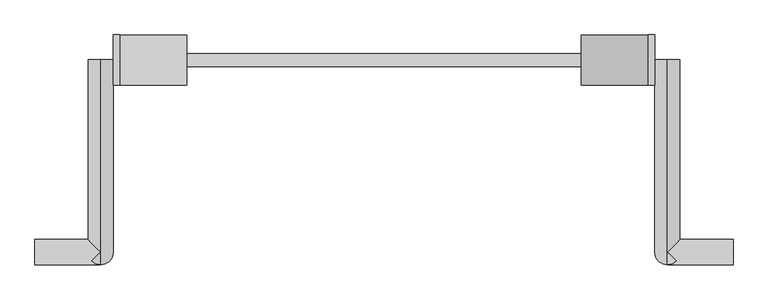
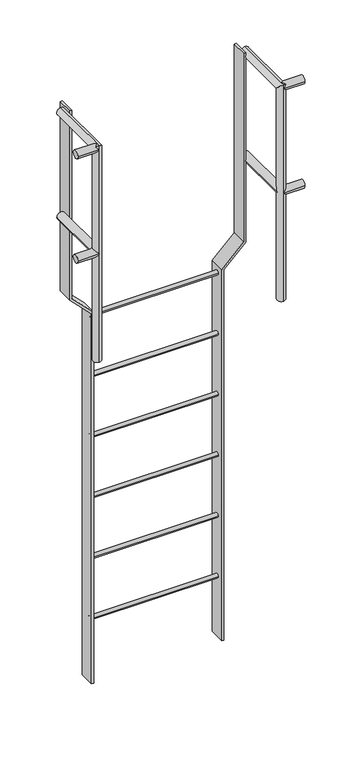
"""IFC4 building model written with IfcOpenShell, lengths in millimetres: proxy geometry, 래더 : 표준."""

from ifc_helpers import new_model, si_unit, point, frame, frame_2d, origin, place, context, project, spatial, polyline, circle_curve, ellipse_curve, trimmed, segment, composite_curve, outline, extrude, source, transform, mapped, element, save
from ifc_brep_helpers import plane_surface, cylinder_surface, advanced_brep


def specialty_equipment_72ed7d0d(model_context):
    return source(origin(), model_context, "Body", "SolidModel", [
        extrude(outline(composite_curve([segment(trimmed(circle_curve(frame_2d((292.7, -1500.0)), 10.0), [point((282.7, -1500.0))], [point((302.7, -1500.0))], False, "CARTESIAN"), True, "CONTINUOUS"), segment(trimmed(circle_curve(frame_2d((292.7, -1500.0)), 10.0), [point((302.7, -1500.0))], [point((282.7, -1500.0))], False, "CARTESIAN"), True, "CONTINUOUS")], self_intersect=False)), frame((-300.0, 0.0, 0.0), z_axis=(1.0, 0.0, 0.0), x_axis=(0.0, 1.0, 0.0)), (0.0, 0.0, 1.0), 600.0),
        extrude(outline(composite_curve([segment(trimmed(circle_curve(frame_2d((292.7, -1200.0)), 10.0), [point((282.7, -1200.0))], [point((302.7, -1200.0))], False, "CARTESIAN"), True, "CONTINUOUS"), segment(trimmed(circle_curve(frame_2d((292.7, -1200.0)), 10.0), [point((302.7, -1200.0))], [point((282.7, -1200.0))], False, "CARTESIAN"), True, "CONTINUOUS")], self_intersect=False)), frame((-300.0, 0.0, 0.0), z_axis=(1.0, 0.0, 0.0), x_axis=(0.0, 1.0, 0.0)), (0.0, 0.0, 1.0), 600.0),
        extrude(outline(composite_curve([segment(trimmed(circle_curve(frame_2d((292.7, -900.0)), 10.0), [point((282.7, -900.0))], [point((302.7, -900.0))], False, "CARTESIAN"), True, "CONTINUOUS"), segment(trimmed(circle_curve(frame_2d((292.7, -900.0)), 10.0), [point((302.7, -900.0))], [point((282.7, -900.0))], False, "CARTESIAN"), True, "CONTINUOUS")], self_intersect=False)), frame((-300.0, 0.0, 0.0), z_axis=(1.0, 0.0, 0.0), x_axis=(0.0, 1.0, 0.0)), (0.0, 0.0, 1.0), 600.0),
        extrude(outline(composite_curve([segment(trimmed(circle_curve(frame_2d((292.7, -600.0)), 10.0), [point((282.7, -600.0))], [point((302.7, -600.0))], False, "CARTESIAN"), True, "CONTINUOUS"), segment(trimmed(circle_curve(frame_2d((292.7, -600.0)), 10.0), [point((302.7, -600.0))], [point((282.7, -600.0))], False, "CARTESIAN"), True, "CONTINUOUS")], self_intersect=False)), frame((-300.0, 0.0, 0.0), z_axis=(1.0, 0.0, 0.0), x_axis=(0.0, 1.0, 0.0)), (0.0, 0.0, 1.0), 600.0),
        extrude(outline(composite_curve([segment(trimmed(circle_curve(frame_2d((292.7, -300.0)), 10.0), [point((282.7, -300.0))], [point((302.7, -300.0))], False, "CARTESIAN"), True, "CONTINUOUS"), segment(trimmed(circle_curve(frame_2d((292.7, -300.0)), 10.0), [point((302.7, -300.0))], [point((282.7, -300.0))], False, "CARTESIAN"), True, "CONTINUOUS")], self_intersect=False)), frame((-300.0, 0.0, 0.0), z_axis=(1.0, 0.0, 0.0), x_axis=(0.0, 1.0, 0.0)), (0.0, 0.0, 1.0), 600.0),
        extrude(outline(composite_curve([segment(trimmed(circle_curve(frame_2d((292.7, 0.0)), 10.0), [point((282.7, 0.0))], [point((302.7, 0.0))], False, "CARTESIAN"), True, "CONTINUOUS"), segment(trimmed(circle_curve(frame_2d((292.7, 0.0)), 10.0), [point((302.7, 0.0))], [point((282.7, 0.0))], False, "CARTESIAN"), True, "CONTINUOUS")], self_intersect=False)), frame((-300.0, 0.0, 0.0), z_axis=(1.0, 0.0, 0.0), x_axis=(0.0, 1.0, 0.0)), (0.0, 0.0, 1.0), 600.0),
        advanced_brep(
        [(411.6, 292.7, 535.0), (449.7, 292.7, 535.0), (449.7, 19.05, 535.0), (444.1203842, 13.4703842, 521.5296158), (430.65, 19.05, 515.95), (411.6, 0.0, 535.0), (430.65, 19.05, 554.05), (444.1203842, 13.4703842, 548.4703842), (530.65, -19.05, 535.0), (530.65, 19.05, 535.0), (430.65, -19.05, 535.0), (430.65, 19.05, 0.0), (430.65, -19.05, 0.0), (430.65, 19.05, 1031.9), (444.1203842, 13.4703842, 1037.4796158), (430.65, -19.05, 1050.95), (444.1203842, -13.4703842, 1064.4203842), (430.65, -19.05, 1070.0), (430.65, 292.7, 1031.9), (430.65, 292.7, 1070.0), (430.65, 0.0, 1070.0), (449.7, 19.05, 1050.95), (530.65, -19.05, 1050.95), (530.65, 19.05, 1050.95)],
        [
            (0, 1, circle_curve(frame((430.65, 292.7, 535.0), z_axis=(0.0, 1.0, 0.0), x_axis=(1.0, 0.0, 0.0)), 19.05)),
            (1, 0, circle_curve(frame((430.65, 292.7, 535.0), z_axis=(0.0, 1.0, 0.0), x_axis=(1.0, 0.0, 0.0)), 19.05)),
            (1, 2),
            (2, 3, ellipse_curve(frame((430.65, 0.0, 535.0), z_axis=(-0.7071067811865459, 0.7071067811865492, 0.0), x_axis=(-0.7071067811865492, -0.7071067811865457, 0.0)), 26.9407684, 19.05)),
            (3, 4, ellipse_curve(frame((430.65, 0.0, 535.0), z_axis=(0.0, 0.7071067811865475, 0.7071067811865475), x_axis=(0.0, -0.7071067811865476, 0.7071067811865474)), 26.9407684, 19.05)),
            (4, 5, ellipse_curve(frame((430.65, 0.0, 535.0), z_axis=(0.0, 0.7071067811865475, 0.7071067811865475), x_axis=(0.0, -0.7071067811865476, 0.7071067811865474)), 26.9407684, 19.05)),
            (5, 0),
            (5, 6, ellipse_curve(frame((430.65, 0.0, 535.0), z_axis=(0.0, 0.7071067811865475, -0.7071067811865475), x_axis=(0.0, -0.7071067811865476, -0.7071067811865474)), 26.9407684, 19.05)),
            (6, 7, ellipse_curve(frame((430.65, 0.0, 535.0), z_axis=(0.0, 0.7071067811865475, -0.7071067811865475), x_axis=(0.0, -0.7071067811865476, -0.7071067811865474)), 26.9407684, 19.05)),
            (7, 2, ellipse_curve(frame((430.65, 0.0, 535.0), z_axis=(-0.7071067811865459, 0.7071067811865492, 0.0), x_axis=(-0.7071067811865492, -0.7071067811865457, 0.0)), 26.9407684, 19.05)),
            (8, 9, circle_curve(frame((530.65, 0.0, 535.0), z_axis=(1.0, 0.0, 0.0), x_axis=(0.0, 1.0, 0.0)), 19.05)),
            (9, 8, circle_curve(frame((530.65, 0.0, 535.0), z_axis=(1.0, 0.0, 0.0), x_axis=(0.0, 1.0, 0.0)), 19.05)),
            (8, 10),
            (10, 3, ellipse_curve(frame((430.65, 0.0, 535.0), z_axis=(0.7071067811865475, 0.0, 0.7071067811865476), x_axis=(0.7071067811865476, 0.0, -0.7071067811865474)), 26.9407684, 19.05)),
            (2, 9),
            (7, 10, ellipse_curve(frame((430.65, 0.0, 535.0), z_axis=(0.7071067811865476, 0.0, -0.7071067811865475), x_axis=(0.7071067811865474, 0.0, 0.7071067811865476)), 26.9407684, 19.05)),
            (11, 12, circle_curve(frame((430.65, 0.0, 0.0), z_axis=(0.0, 0.0, -1.0), x_axis=(0.0, -1.0, 0.0)), 19.05)),
            (12, 11, circle_curve(frame((430.65, 0.0, 0.0), z_axis=(0.0, 0.0, -1.0), x_axis=(0.0, -1.0, 0.0)), 19.05)),
            (11, 4),
            (10, 12),
            (6, 13),
            (13, 14, ellipse_curve(frame((430.65, 0.0, 1050.95), z_axis=(0.0, -0.7071067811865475, -0.7071067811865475), x_axis=(0.0, 0.7071067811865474, -0.7071067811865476)), 26.9407684, 19.05)),
            (14, 15, ellipse_curve(frame((430.65, 0.0, 1050.95), z_axis=(-0.7071067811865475, 0.0, -0.7071067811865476), x_axis=(0.7071067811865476, 0.0, -0.7071067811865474)), 26.9407684, 19.05)),
            (15, 10),
            (16, 17, ellipse_curve(frame((430.65, 0.0, 1050.95), z_axis=(0.0, -0.7071067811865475, -0.7071067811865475), x_axis=(0.0, 0.7071067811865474, -0.7071067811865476)), 26.9407684, 19.05)),
            (17, 15),
            (15, 16, ellipse_curve(frame((430.65, 0.0, 1050.95), z_axis=(-0.7071067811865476, 0.0, 0.7071067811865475), x_axis=(-0.7071067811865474, 0.0, -0.7071067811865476)), 26.9407684, 19.05)),
            (17, 13, ellipse_curve(frame((430.65, 0.0, 1050.95), z_axis=(0.0, -0.7071067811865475, -0.7071067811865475), x_axis=(0.0, 0.7071067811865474, -0.7071067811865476)), 26.9407684, 19.05)),
            (18, 19, circle_curve(frame((430.65, 292.7, 1050.95), z_axis=(0.0, 1.0, 0.0), x_axis=(0.0, 0.0, 1.0)), 19.05)),
            (19, 18, circle_curve(frame((430.65, 292.7, 1050.95), z_axis=(0.0, 1.0, 0.0), x_axis=(0.0, 0.0, 1.0)), 19.05)),
            (16, 20, ellipse_curve(frame((430.65, 0.0, 1050.95), z_axis=(-0.7071067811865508, -0.7071067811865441, 0.0), x_axis=(0.7071067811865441, -0.7071067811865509, 0.0)), 26.9407684, 19.05)),
            (20, 17),
            (19, 20),
            (20, 21, ellipse_curve(frame((430.65, 0.0, 1050.95), z_axis=(-0.7071067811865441, 0.7071067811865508, 0.0), x_axis=(-0.7071067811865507, -0.7071067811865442, 0.0)), 26.9407684, 19.05)),
            (21, 14, ellipse_curve(frame((430.65, 0.0, 1050.95), z_axis=(-0.7071067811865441, 0.7071067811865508, 0.0), x_axis=(-0.7071067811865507, -0.7071067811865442, 0.0)), 26.9407684, 19.05)),
            (13, 18),
            (22, 23, circle_curve(frame((530.65, 0.0, 1050.95), z_axis=(1.0, 0.0, 0.0), x_axis=(0.0, 1.0, 0.0)), 19.05)),
            (23, 22, circle_curve(frame((530.65, 0.0, 1050.95), z_axis=(1.0, 0.0, 0.0), x_axis=(0.0, 1.0, 0.0)), 19.05)),
            (22, 15),
            (21, 23),
        ],
        [
            plane_surface(frame((449.7, 292.7, 535.0), z_axis=(0.0, 1.0, 0.0), x_axis=(0.0, 0.0, -1.0))),
            cylinder_surface(frame((430.65, 292.7, 535.0), z_axis=(0.0, -1.0, 0.0), x_axis=(1.0, 0.0, 0.0)), 19.05),
            plane_surface(frame((530.65, 19.05, 535.0), z_axis=(1.0, 0.0, 0.0), x_axis=(0.0, 0.0, 1.0))),
            cylinder_surface(frame((430.65, 0.0, 535.0), z_axis=(1.0, 0.0, 0.0), x_axis=(0.0, 1.0, 0.0)), 19.05),
            plane_surface(frame((0.0, 0.0, 0.0), z_axis=(0.0, 0.0, -1.0), x_axis=(1.0, 0.0, 0.0))),
            cylinder_surface(frame((430.65, 0.0, 0.0), z_axis=(0.0, 0.0, -1.0), x_axis=(0.0, -1.0, 0.0)), 19.05),
            plane_surface(frame((0.0, 292.7, 1050.95), z_axis=(0.0, 1.0, 0.0), x_axis=(1.0, 0.0, 0.0))),
            cylinder_surface(frame((430.65, 0.0, 1050.95), z_axis=(0.0, -1.0, 0.0), x_axis=(0.0, 0.0, 1.0)), 19.05),
            plane_surface(frame((530.65, 19.05, 1050.95), z_axis=(1.0, 0.0, 0.0), x_axis=(0.0, 0.0, 1.0))),
            cylinder_surface(frame((430.65, 0.0, 1050.95), z_axis=(1.0, 0.0, 0.0), x_axis=(0.0, 1.0, 0.0)), 19.05),
        ],
        [
            (0, [[1, 2]]),
            (1, [[-2, 3, 4, 5, 6, 7]]),
            (1, [[-1, -7, 8, 9, 10, -3]]),
            (2, [[11, 12]]),
            (3, [[-11, 13, 14, -4, 15]]),
            (3, [[-12, -15, -10, 16, -13]]),
            (4, [[17, 18]]),
            (5, [[-17, 19, -5, -14, 20]]),
            (5, [[21, 22, 23, 24, -16, -9]]),
            (5, [[25, 26, 27]]),
            (5, [[-18, -20, -24, -26, 28, -21, -8, -6, -19]]),
            (6, [[29, 30]]),
            (7, [[-25, 31, 32]]),
            (7, [[-30, 33, 34, 35, -22, 36]]),
            (7, [[-28, -32, -33, -29, -36]]),
            (8, [[37, 38]]),
            (9, [[-37, 39, -23, -35, 40]]),
            (9, [[-38, -40, -34, -31, -27, -39]]),
        ],
    ),
        advanced_brep(
        [(-530.65, -19.05, 535.0), (-530.65, 19.05, 535.0), (-449.7, 19.05, 535.0), (-444.1203842, 13.4703842, 521.5296158), (-430.65, -19.05, 535.0), (-444.1203842, 13.4703842, 548.4703842), (-449.7, 292.7, 535.0), (-411.6, 292.7, 535.0), (-411.6, 0.0, 535.0), (-430.65, 19.05, 515.95), (-430.65, 19.05, 554.05), (-430.65, 19.05, 0.0), (-430.65, -19.05, 0.0), (-430.65, 19.05, 1031.9), (-430.65, -19.05, 1070.0), (-430.65, -19.05, 1050.95), (-444.1203842, 13.4703842, 1037.4796158), (-444.1203842, -13.4703842, 1064.4203842), (-430.65, 292.7, 1031.9), (-430.65, 292.7, 1070.0), (-430.65, 0.0, 1070.0), (-449.7, 19.05, 1050.95), (-530.65, -19.05, 1050.95), (-530.65, 19.05, 1050.95)],
        [
            (0, 1, circle_curve(frame((-530.65, 0.0, 535.0), z_axis=(-1.0, 0.0, 0.0), x_axis=(0.0, 1.0, 0.0)), 19.05)),
            (1, 0, circle_curve(frame((-530.65, 0.0, 535.0), z_axis=(-1.0, 0.0, 0.0), x_axis=(0.0, 1.0, 0.0)), 19.05)),
            (1, 2),
            (2, 3, ellipse_curve(frame((-430.65, 0.0, 535.0), z_axis=(-0.7071067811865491, -0.7071067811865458, 0.0), x_axis=(0.7071067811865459, -0.707106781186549, 0.0)), 26.9407684, 19.05)),
            (3, 4, ellipse_curve(frame((-430.65, 0.0, 535.0), z_axis=(-0.7071067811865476, 0.0, 0.7071067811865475), x_axis=(0.7071067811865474, 0.0, 0.7071067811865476)), 26.9407684, 19.05)),
            (4, 0),
            (4, 5, ellipse_curve(frame((-430.65, 0.0, 535.0), z_axis=(-0.7071067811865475, 0.0, -0.7071067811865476), x_axis=(0.7071067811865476, 0.0, -0.7071067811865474)), 26.9407684, 19.05)),
            (5, 2, ellipse_curve(frame((-430.65, 0.0, 535.0), z_axis=(-0.7071067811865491, -0.7071067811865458, 0.0), x_axis=(0.7071067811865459, -0.707106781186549, 0.0)), 26.9407684, 19.05)),
            (6, 7, circle_curve(frame((-430.65, 292.7, 535.0), z_axis=(0.0, 1.0, 0.0), x_axis=(1.0, 0.0, 0.0)), 19.05)),
            (7, 6, circle_curve(frame((-430.65, 292.7, 535.0), z_axis=(0.0, 1.0, 0.0), x_axis=(1.0, 0.0, 0.0)), 19.05)),
            (7, 8),
            (8, 9, ellipse_curve(frame((-430.65, 0.0, 535.0), z_axis=(0.0, 0.7071067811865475, 0.7071067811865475), x_axis=(0.0, -0.7071067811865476, 0.7071067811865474)), 26.9407684, 19.05)),
            (9, 3, ellipse_curve(frame((-430.65, 0.0, 535.0), z_axis=(0.0, 0.7071067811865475, 0.7071067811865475), x_axis=(0.0, -0.7071067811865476, 0.7071067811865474)), 26.9407684, 19.05)),
            (2, 6),
            (5, 10, ellipse_curve(frame((-430.65, 0.0, 535.0), z_axis=(0.0, 0.7071067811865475, -0.7071067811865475), x_axis=(0.0, -0.7071067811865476, -0.7071067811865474)), 26.9407684, 19.05)),
            (10, 8, ellipse_curve(frame((-430.65, 0.0, 535.0), z_axis=(0.0, 0.7071067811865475, -0.7071067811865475), x_axis=(0.0, -0.7071067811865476, -0.7071067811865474)), 26.9407684, 19.05)),
            (11, 12, circle_curve(frame((-430.65, 0.0, 0.0), z_axis=(0.0, 0.0, -1.0), x_axis=(0.0, -1.0, 0.0)), 19.05)),
            (12, 11, circle_curve(frame((-430.65, 0.0, 0.0), z_axis=(0.0, 0.0, -1.0), x_axis=(0.0, -1.0, 0.0)), 19.05)),
            (11, 9),
            (10, 13),
            (13, 14, ellipse_curve(frame((-430.65, 0.0, 1050.95), z_axis=(0.0, -0.7071067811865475, -0.7071067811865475), x_axis=(0.0, 0.7071067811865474, -0.7071067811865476)), 26.9407684, 19.05)),
            (14, 15),
            (15, 4),
            (4, 12),
            (15, 16, ellipse_curve(frame((-430.65, 0.0, 1050.95), z_axis=(0.7071067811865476, 0.0, -0.7071067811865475), x_axis=(-0.7071067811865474, 0.0, -0.7071067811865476)), 26.9407684, 19.05)),
            (16, 13, ellipse_curve(frame((-430.65, 0.0, 1050.95), z_axis=(0.0, -0.7071067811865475, -0.7071067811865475), x_axis=(0.0, 0.7071067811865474, -0.7071067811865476)), 26.9407684, 19.05)),
            (14, 17, ellipse_curve(frame((-430.65, 0.0, 1050.95), z_axis=(0.0, -0.7071067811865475, -0.7071067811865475), x_axis=(0.0, 0.7071067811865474, -0.7071067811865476)), 26.9407684, 19.05)),
            (17, 15, ellipse_curve(frame((-430.65, 0.0, 1050.95), z_axis=(0.7071067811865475, 0.0, 0.7071067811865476), x_axis=(0.7071067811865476, 0.0, -0.7071067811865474)), 26.9407684, 19.05)),
            (18, 19, circle_curve(frame((-430.65, 292.7, 1050.95), z_axis=(0.0, 1.0, 0.0), x_axis=(0.0, 0.0, 1.0)), 19.05)),
            (19, 18, circle_curve(frame((-430.65, 292.7, 1050.95), z_axis=(0.0, 1.0, 0.0), x_axis=(0.0, 0.0, 1.0)), 19.05)),
            (13, 18),
            (19, 20),
            (20, 14),
            (20, 17, ellipse_curve(frame((-430.65, 0.0, 1050.95), z_axis=(0.7071067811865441, -0.7071067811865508, 0.0), x_axis=(-0.7071067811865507, -0.7071067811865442, 0.0)), 26.9407684, 19.05)),
            (16, 21, ellipse_curve(frame((-430.65, 0.0, 1050.95), z_axis=(0.7071067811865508, 0.7071067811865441, 0.0), x_axis=(0.7071067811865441, -0.7071067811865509, 0.0)), 26.9407684, 19.05)),
            (21, 20, ellipse_curve(frame((-430.65, 0.0, 1050.95), z_axis=(0.7071067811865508, 0.7071067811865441, 0.0), x_axis=(0.7071067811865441, -0.7071067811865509, 0.0)), 26.9407684, 19.05)),
            (22, 23, circle_curve(frame((-530.65, 0.0, 1050.95), z_axis=(-1.0, 0.0, 0.0), x_axis=(0.0, 1.0, 0.0)), 19.05)),
            (23, 22, circle_curve(frame((-530.65, 0.0, 1050.95), z_axis=(-1.0, 0.0, 0.0), x_axis=(0.0, 1.0, 0.0)), 19.05)),
            (23, 21),
            (15, 22),
        ],
        [
            plane_surface(frame((-530.65, 19.05, 535.0), z_axis=(-1.0, 0.0, 0.0), x_axis=(0.0, 0.0, -1.0))),
            cylinder_surface(frame((-530.65, 0.0, 535.0), z_axis=(1.0, 0.0, 0.0), x_axis=(0.0, 1.0, 0.0)), 19.05),
            plane_surface(frame((-411.6, 292.7, 535.0), z_axis=(0.0, 1.0, 0.0), x_axis=(0.0, 0.0, -1.0))),
            cylinder_surface(frame((-430.65, 292.7, 535.0), z_axis=(0.0, -1.0, 0.0), x_axis=(1.0, 0.0, 0.0)), 19.05),
            plane_surface(frame((0.0, 0.0, 0.0), z_axis=(0.0, 0.0, -1.0), x_axis=(1.0, 0.0, 0.0))),
            cylinder_surface(frame((-430.65, 0.0, 0.0), z_axis=(0.0, 0.0, -1.0), x_axis=(0.0, -1.0, 0.0)), 19.05),
            plane_surface(frame((0.0, 292.7, 1050.95), z_axis=(0.0, 1.0, 0.0), x_axis=(1.0, 0.0, 0.0))),
            cylinder_surface(frame((-430.65, 0.0, 1050.95), z_axis=(0.0, -1.0, 0.0), x_axis=(0.0, 0.0, 1.0)), 19.05),
            plane_surface(frame((-530.65, 19.05, 1050.95), z_axis=(-1.0, 0.0, 0.0), x_axis=(0.0, 0.0, -1.0))),
            cylinder_surface(frame((-530.65, 0.0, 1050.95), z_axis=(1.0, 0.0, 0.0), x_axis=(0.0, 1.0, 0.0)), 19.05),
        ],
        [
            (0, [[1, 2]]),
            (1, [[-2, 3, 4, 5, 6]]),
            (1, [[-1, -6, 7, 8, -3]]),
            (2, [[9, 10]]),
            (3, [[-10, 11, 12, 13, -4, 14]]),
            (3, [[-9, -14, -8, 15, 16, -11]]),
            (4, [[17, 18]]),
            (5, [[-17, 19, -12, -16, 20, 21, 22, 23, 24]]),
            (5, [[-18, -24, -5, -13, -19]]),
            (5, [[-20, -15, -7, -23, 25, 26]]),
            (5, [[27, 28, -22]]),
            (6, [[29, 30]]),
            (7, [[-21, 31, -30, 32, 33]]),
            (7, [[-27, -33, 34]]),
            (7, [[-29, -31, -26, 35, 36, -32]]),
            (8, [[37, 38]]),
            (9, [[-38, 39, -35, -25, 40]]),
            (9, [[-37, -40, -28, -34, -36, -39]]),
        ],
    ),
        extrude(outline(polyline([(1070.0, -411.6), (133.35, -411.6), (31.75, -310.0), (-1800.0, -310.0), (-1800.0, -300.0), (35.8921356, -300.0), (137.4921356, -401.6), (1070.0, -401.6), (1070.0, -411.6)])), frame((0.0, 254.6, 0.0), z_axis=(0.0, 1.0, 0.0), x_axis=(0.0, 0.0, 1.0)), (0.0, 0.0, 1.0), 76.2),
        extrude(outline(polyline([(1070.0, 401.6), (137.4921356, 401.6), (35.8921356, 300.0), (-1800.0, 300.0), (-1800.0, 310.0), (31.75, 310.0), (133.35, 411.6), (1070.0, 411.6), (1070.0, 401.6)])), frame((0.0, 254.6, 0.0), z_axis=(0.0, 1.0, 0.0), x_axis=(0.0, 0.0, 1.0)), (0.0, 0.0, 1.0), 76.2),
    ])


if __name__ == "__main__":
    model = new_model("IFC4")
    model_context = context("Model", 3, world=origin())
    ifc_project = project(units=[si_unit("LENGTHUNIT", "METRE", prefix="MILLI")], contexts=[model_context])
    site = spatial("IfcSite", under=ifc_project)
    building = spatial("IfcBuilding", under=site)
    placement = place(None, origin())
    specialty_equipment_shape = specialty_equipment_72ed7d0d(model_context)
    element("IfcBuildingElementProxy", 1, Name="래더 : 표준", ObjectType="래더 : 표준", at=placement, inside=building, context=model_context, shape_type="MappedRepresentation", body=[
        mapped(specialty_equipment_shape, transform((0.0, 0.0, 0.0), x_axis=(1.0, 0.0, 0.0), y_axis=(0.0, 1.0, 0.0), z_axis=(0.0, 0.0, 1.0))),
    ])
    save(model, "model.ifc")
